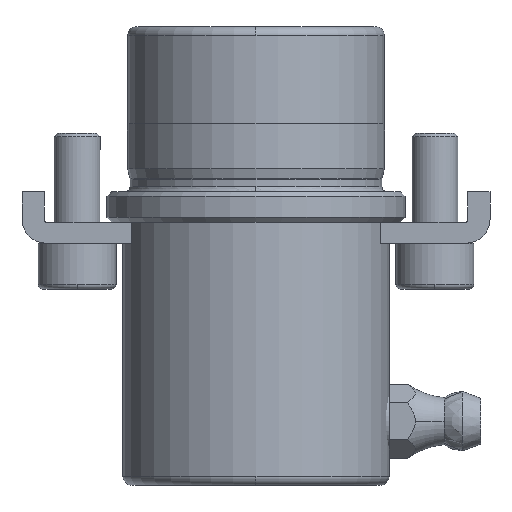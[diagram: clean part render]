
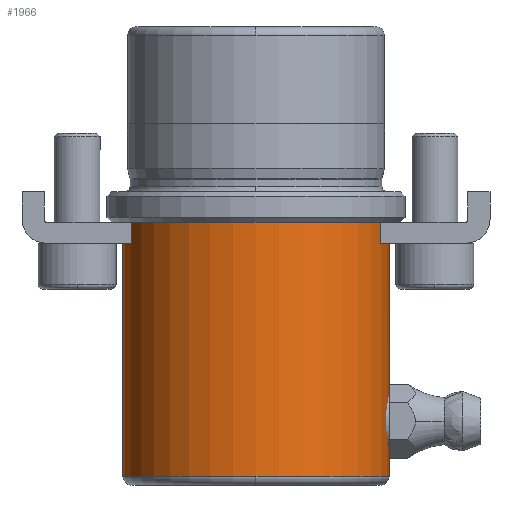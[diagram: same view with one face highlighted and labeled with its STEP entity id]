
A CAD part, front view. The second image highlights one B-rep face of the part: STEP entity #1966.
In plain terms, the highlighted cylindrical face has radius 14.5 mm (diameter 29 mm), a partial arc.
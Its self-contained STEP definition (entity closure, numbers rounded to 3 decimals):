
#420=CARTESIAN_POINT('',(0.,-14.5,-31.));
#421=VERTEX_POINT('',#420);
#429=CARTESIAN_POINT('',(-14.5,0.,-31.));
#430=VERTEX_POINT('',#429);
#431=CARTESIAN_POINT('',(0.0,0.,-31.));
#432=DIRECTION('',(0.0,0.0,-1.0));
#433=DIRECTION('',(1.0,0.0,0.0));
#434=AXIS2_PLACEMENT_3D('',#431,#432,#433);
#435=CIRCLE('',#434,14.5);
#436=EDGE_CURVE('',#421,#430,#435,.T.);
#453=CARTESIAN_POINT('',(14.5,0.,-31.0));
#454=VERTEX_POINT('',#453);
#455=CARTESIAN_POINT('',(14.5,0.,-27.5));
#456=VERTEX_POINT('',#455);
#457=CARTESIAN_POINT('',(14.5,0.,-31.0));
#458=DIRECTION('',(0.0,0.0,1.0));
#459=VECTOR('',#458,3.5);
#460=LINE('',#457,#459);
#461=EDGE_CURVE('',#454,#456,#460,.T.);
#471=CARTESIAN_POINT('',(-14.5,0.,-3.3));
#472=VERTEX_POINT('',#471);
#473=CARTESIAN_POINT('',(-14.5,0.,-31.));
#474=DIRECTION('',(0.0,0.0,1.0));
#475=VECTOR('',#474,27.7);
#476=LINE('',#473,#475);
#477=EDGE_CURVE('',#430,#472,#476,.T.);
#479=CARTESIAN_POINT('',(14.5,0.,-3.3));
#480=VERTEX_POINT('',#479);
#488=CARTESIAN_POINT('',(14.5,0.,-22.5));
#489=VERTEX_POINT('',#488);
#490=CARTESIAN_POINT('',(14.5,0.,-22.5));
#491=DIRECTION('',(0.0,0.0,1.0));
#492=VECTOR('',#491,19.2);
#493=LINE('',#490,#492);
#494=EDGE_CURVE('',#489,#480,#493,.T.);
#1335=CARTESIAN_POINT('',(14.283,-2.5,-25.0));
#1336=VERTEX_POINT('',#1335);
#1337=CARTESIAN_POINT('',(14.283,-2.5,-25.0));
#1338=CARTESIAN_POINT('',(14.283,-2.5,-24.843));
#1339=CARTESIAN_POINT('',(14.286,-2.485,-24.68));
#1340=CARTESIAN_POINT('',(14.296,-2.421,-24.357));
#1341=CARTESIAN_POINT('',(14.305,-2.373,-24.196));
#1342=CARTESIAN_POINT('',(14.325,-2.246,-23.888));
#1343=CARTESIAN_POINT('',(14.338,-2.166,-23.741));
#1344=CARTESIAN_POINT('',(14.364,-1.983,-23.468));
#1345=CARTESIAN_POINT('',(14.378,-1.879,-23.343));
#1346=CARTESIAN_POINT('',(14.405,-1.657,-23.121));
#1347=CARTESIAN_POINT('',(14.42,-1.532,-23.017));
#1348=CARTESIAN_POINT('',(14.446,-1.259,-22.834));
#1349=CARTESIAN_POINT('',(14.458,-1.112,-22.754));
#1350=CARTESIAN_POINT('',(14.479,-0.804,-22.627));
#1351=CARTESIAN_POINT('',(14.487,-0.643,-22.579));
#1352=CARTESIAN_POINT('',(14.497,-0.32,-22.515));
#1353=CARTESIAN_POINT('',(14.5,-0.157,-22.5));
#1354=CARTESIAN_POINT('',(14.5,0.,-22.5));
#1355=B_SPLINE_CURVE_WITH_KNOTS('',3,(#1337,#1338,#1339,#1340,#1341,#1342,#1343,#1344,#1345,#1346,#1347,#1348,#1349,#1350,#1351,#1352,#1353,#1354),.UNSPECIFIED.,.F.,.U.,(4,2,2,2,2,2,2,2,4),(0.0,0.472,0.944,1.416,1.888,2.359,2.831,3.303,3.775),.UNSPECIFIED.);
#1356=EDGE_CURVE('',#1336,#489,#1355,.T.);
#1358=CARTESIAN_POINT('',(14.5,0.,-27.5));
#1359=CARTESIAN_POINT('',(14.5,-0.157,-27.5));
#1360=CARTESIAN_POINT('',(14.497,-0.32,-27.485));
#1361=CARTESIAN_POINT('',(14.487,-0.643,-27.421));
#1362=CARTESIAN_POINT('',(14.479,-0.804,-27.373));
#1363=CARTESIAN_POINT('',(14.458,-1.112,-27.246));
#1364=CARTESIAN_POINT('',(14.446,-1.259,-27.166));
#1365=CARTESIAN_POINT('',(14.42,-1.532,-26.983));
#1366=CARTESIAN_POINT('',(14.405,-1.657,-26.879));
#1367=CARTESIAN_POINT('',(14.378,-1.879,-26.657));
#1368=CARTESIAN_POINT('',(14.364,-1.983,-26.532));
#1369=CARTESIAN_POINT('',(14.338,-2.166,-26.259));
#1370=CARTESIAN_POINT('',(14.325,-2.246,-26.112));
#1371=CARTESIAN_POINT('',(14.305,-2.373,-25.804));
#1372=CARTESIAN_POINT('',(14.296,-2.421,-25.643));
#1373=CARTESIAN_POINT('',(14.286,-2.485,-25.32));
#1374=CARTESIAN_POINT('',(14.283,-2.5,-25.157));
#1375=CARTESIAN_POINT('',(14.283,-2.5,-25.0));
#1376=B_SPLINE_CURVE_WITH_KNOTS('',3,(#1358,#1359,#1360,#1361,#1362,#1363,#1364,#1365,#1366,#1367,#1368,#1369,#1370,#1371,#1372,#1373,#1374,#1375),.UNSPECIFIED.,.F.,.U.,(4,2,2,2,2,2,2,2,4),(11.325,11.797,12.269,12.741,13.212,13.684,14.156,14.628,15.1),.UNSPECIFIED.);
#1377=EDGE_CURVE('',#456,#1336,#1376,.T.);
#1934=CARTESIAN_POINT('',(0.0,0.,-3.3));
#1935=DIRECTION('',(0.0,0.0,-1.0));
#1936=DIRECTION('',(1.0,0.0,0.0));
#1937=AXIS2_PLACEMENT_3D('',#1934,#1935,#1936);
#1938=CIRCLE('',#1937,14.5);
#1939=EDGE_CURVE('',#480,#472,#1938,.T.);
#1945=CARTESIAN_POINT('',(0.0,0.,-17.15));
#1946=DIRECTION('',(0.0,0.,-1.0));
#1947=DIRECTION('',(1.0,0.0,0.0));
#1948=AXIS2_PLACEMENT_3D('',#1945,#1946,#1947);
#1949=CYLINDRICAL_SURFACE('',#1948,14.5);
#1950=ORIENTED_EDGE('',*,*,#461,.T.);
#1951=ORIENTED_EDGE('',*,*,#1377,.T.);
#1952=ORIENTED_EDGE('',*,*,#1356,.T.);
#1953=ORIENTED_EDGE('',*,*,#494,.T.);
#1954=ORIENTED_EDGE('',*,*,#1939,.T.);
#1955=ORIENTED_EDGE('',*,*,#477,.F.);
#1956=ORIENTED_EDGE('',*,*,#436,.F.);
#1957=CARTESIAN_POINT('',(0.0,0.,-31.));
#1958=DIRECTION('',(0.0,0.0,-1.0));
#1959=DIRECTION('',(1.0,0.0,0.0));
#1960=AXIS2_PLACEMENT_3D('',#1957,#1958,#1959);
#1961=CIRCLE('',#1960,14.5);
#1962=EDGE_CURVE('',#454,#421,#1961,.T.);
#1963=ORIENTED_EDGE('',*,*,#1962,.F.);
#1964=EDGE_LOOP('',(#1950,#1951,#1952,#1953,#1954,#1955,#1956,#1963));
#1965=FACE_OUTER_BOUND('',#1964,.T.);
#1966=ADVANCED_FACE('',(#1965),#1949,.T.);
